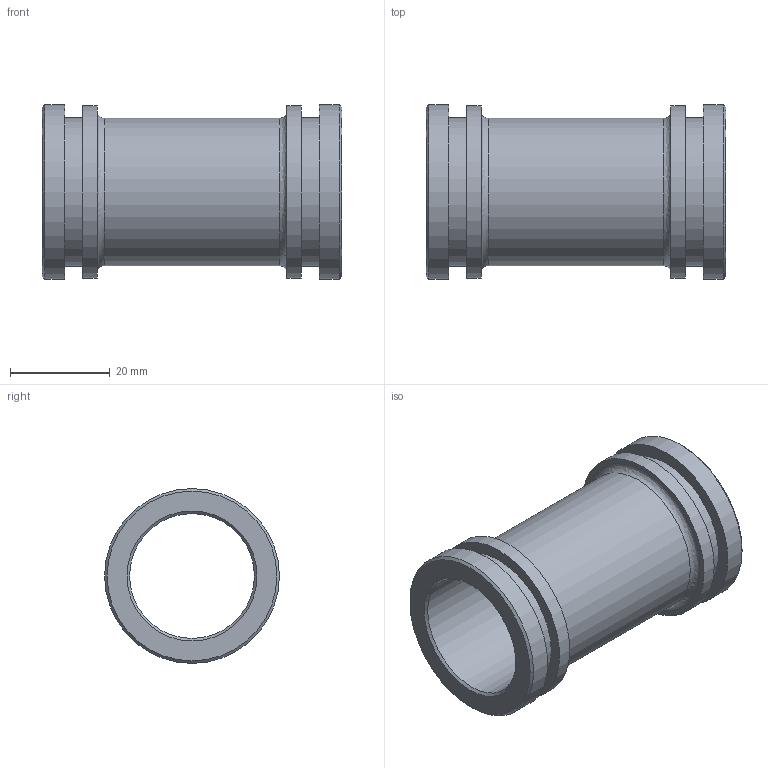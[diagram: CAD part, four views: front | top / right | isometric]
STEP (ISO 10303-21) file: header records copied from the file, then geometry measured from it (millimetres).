
FILE_DESCRIPTION((''),'2;1');
FILE_NAME('N:\CAD\ARCHIV\5350 (-999)\Standardhülsen\5350.025.060\Kundenteil 3D\5350.025.060 Kunden.stp','2009-02-13T12:33:56',('HWalkhoff'),(''),'Autodesk Inventor 2009','Autodesk Inventor 2009','');
FILE_SCHEMA(('AUTOMOTIVE_DESIGN { 1 0 10303 214 1 1 1 1 }'));
Length unit declared in the file: millimetre
Products named in the file (1): Hülse für Kunden
Bounding box: 60 x 35 x 35 mm (x, y, z)
Volume: 15632.1 mm3; surface area: 12761.4 mm2
Topology: 1 solids, 1 shells, 22 faces, 36 edges, 22 vertices
Faces by surface type: cylinder 8, plane 8, cone 4, bspline 2
Full cylindrical faces by diameter (mm): 25 x1, 29.5 x1, 29.76 x2, 34.5 x2, 35 x2
Entity records: 554 total; most frequent: CARTESIAN_POINT 155, DIRECTION 86, ORIENTED_EDGE 44, EDGE_LOOP 44, AXIS2_PLACEMENT_3D 43, VERTEX_POINT 22, CIRCLE 22, EDGE_CURVE 22
